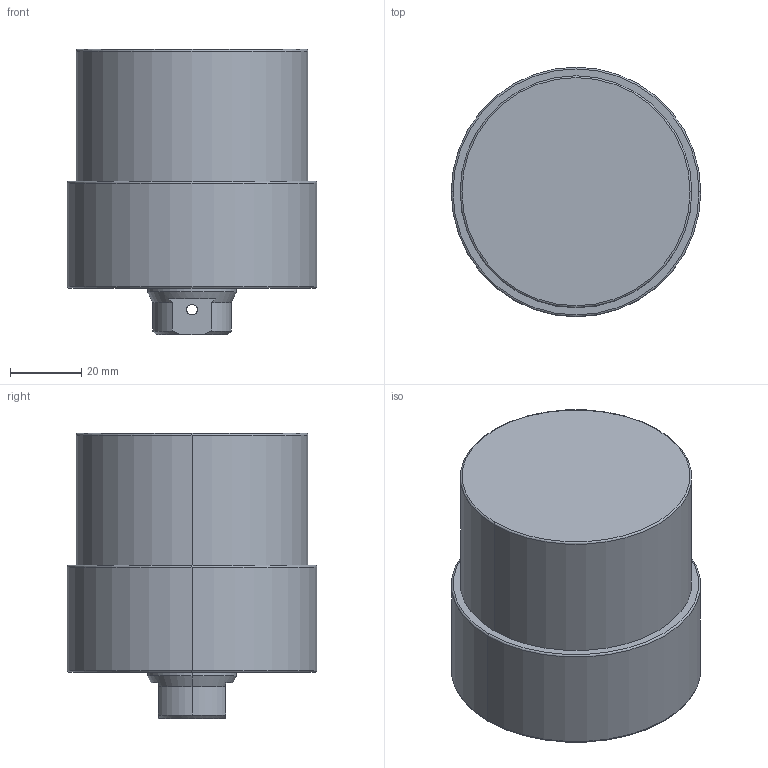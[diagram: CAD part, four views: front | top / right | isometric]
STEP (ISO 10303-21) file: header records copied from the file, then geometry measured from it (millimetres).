
FILE_DESCRIPTION (( 'STEP AP203' ), '1' );
FILE_NAME ('CLLU-065GB-020.STEP', '2020-01-06T08:39:06', ( '' ), ( '' ), 'SwSTEP 2.0', 'SolidWorks 2015', '' );
FILE_SCHEMA (( 'CONFIG_CONTROL_DESIGN' ));
Length unit declared in the file: millimetre
Products named in the file (1): CLLU-065GB-020
Bounding box: 70 x 70 x 80 mm (x, y, z)
Volume: 238705.1 mm3; surface area: 24776 mm2
Topology: 1 solids, 1 shells, 68 faces, 157 edges, 90 vertices
Faces by surface type: cylinder 27, cone 25, plane 10, torus 6
Entity records: 2051 total; most frequent: CARTESIAN_POINT 438, DIRECTION 352, ORIENTED_EDGE 294, AXIS2_PLACEMENT_3D 148, EDGE_CURVE 147, VERTEX_POINT 90, EDGE_LOOP 81, CIRCLE 79
